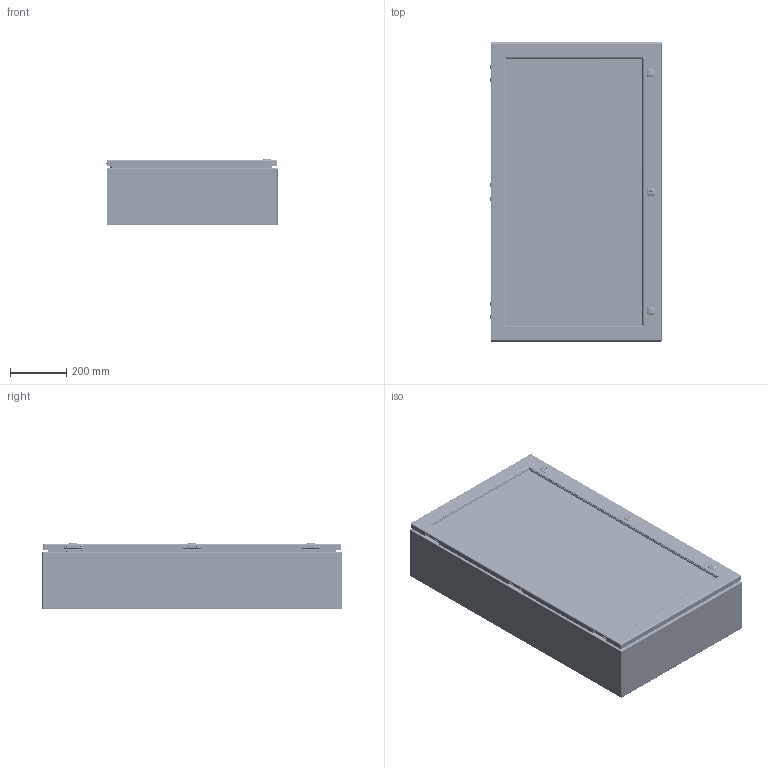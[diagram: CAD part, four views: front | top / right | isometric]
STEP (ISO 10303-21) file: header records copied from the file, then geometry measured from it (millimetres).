
FILE_DESCRIPTION(/* description */ ('5412ESW 42" x 24" x 8" Assembly'),/* implementation_level */ '2;1');
FILE_NAME(/* name */ 'C:\Vault_Workspace\Inventor_Dwg\BoxCad\Result\5412ESW422408\e-mail\3D\5412ESW422408.stp',/* time_stamp */ '2021-09-30T14:28:12-04:00',/* author */ ('BoxCad'),/* organization */ (''),/* preprocessor_version */ 'ST-DEVELOPER v18.1',/* originating_system */ 'Autodesk Inventor 2020',/* authorisation */ '');
FILE_SCHEMA (('AUTOMOTIVE_DESIGN { 1 0 10303 214 3 1 1 }'));
Products named in the file (66): 5412ESW422408; 5412ESW422408B; 5412ESW422408B-P; STK-Q-16005; STUD_M6 x 16mm; STK-S-00100; STK-Q-07610; 881SP4224G; 881SP4224G-P; STK-Q-07310; 5412ESW422408C; 5412ESW422408C-P; 5412ESW422408G; STK-K-09800; STK-K-09800-2; STK-K-09800-3; STK-Q-33014; STK-Q-90398; STK-Q-40095; STK-Q-63410; 5412ESW422408LX; 5412ESW422408LXG; 5412ESW422408_STK_G_02705; STK-Q-16052; 5412ESW422408_STK-A-60703; STK-Q-60703-2; STK-Q-60703-1; STK-Q-60703-3; STK-Q-60703-4; STK-Q-60702-A; STK-Q-60703-B; STK-Q-60703-C; STK-Q-60701; STK-Q-60701_1; STK-Q-60701_2; STK-Q-60701_3; STK-Q-60701_4; STK-Q-60701_5; STK-Q-60701_6; STK-Q-60701_7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
Assembly tree (172 placements, depth 5):
  5412ESW422408
    5412ESW422408B
      5412ESW422408B-P
      STK-Q-16005  x6
      STK-P-02400S
      STUD_M6 x 16mm
      STK-S-00100
    STK-Q-07610  x6
    881SP4224G
      881SP4224G-P
    STK-Q-07310  x6
    5412ESW422408C
      5412ESW422408C-P
      5412ESW422408G
      STK-K-09800
        STK-Q-33014
        STK-Q-90398
        STK-Q-40095  x2
        STK-Q-63410  x2
      STK-K-09800-2
        STK-Q-33014
        STK-Q-90398
        STK-Q-40095  x2
        STK-Q-63410  x2
      STK-K-09800-3
        STK-Q-33014
        STK-Q-90398
        STK-Q-40095  x2
        STK-Q-63410  x2
      5412ESW422408LX
      5412ESW422408LXG
      5412ESW422408_STK_G_02705
      STK-Q-16052  x16
      5412ESW422408_STK-A-60703
        STK-Q-60703-2
          STK-Q-60702-A
          STK-Q-60703-B
          STK-Q-60703-C
        STK-Q-60703-1
          STK-Q-60702-A
          STK-Q-60703-B
          STK-Q-60703-C
        STK-Q-60703-3
          STK-Q-60702-A
          STK-Q-60703-B
          STK-Q-60703-C
        STK-Q-60703-4
          STK-Q-60702-A
          STK-Q-60703-B
          STK-Q-60703-C
      STK-Q-60701
        STK-Q-60701-A
        STK-Q-60701-B
        STK-Q-60701-C
      STK-Q-60701_1
        STK-Q-60701-A
        STK-Q-60701-B
        STK-Q-60701-C
      STK-Q-60701_2
        STK-Q-60701-A
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Bounding box: 609.67 x 1066.8 x 235.97 mm (x, y, z)
Volume: 7969467.9 mm3; surface area: 6246628.5 mm2
Topology: 139 solids, 139 shells, 27711 faces, 75134 edges, 48226 vertices
Faces by surface type: bspline 9980, plane 9295, cylinder 6634, torus 977, sphere 458, cone 367
Full cylindrical faces by diameter (mm): 0 x1, 0.75 x23, 0.762 x23, 1 x12, 1.1 x12, 3.2 x6, 4.4 x8, 4.5 x16, 4.521 x12, 4.75 x3, 4.85 x24, 4.95 x6, 5 x16, 5.1 x100, 5.156 x4, 5.6 x3, 5.9 x43, 6.65 x6, 6.85 x24, 6.894 x8, 7 x32, 7.3 x3, 7.366 x20, 7.9 x6, 8 x38, 8.382 x3, 9 x16, 9.5 x16, 9.6 x3, 9.906 x4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
Entity records: 204726 total; most frequent: CARTESIAN_POINT 81329, ORIENTED_EDGE 27948, DIRECTION 20681, EDGE_CURVE 13974, VERTEX_POINT 8878, AXIS2_PLACEMENT_3D 7163, LINE 6355, VECTOR 6355
